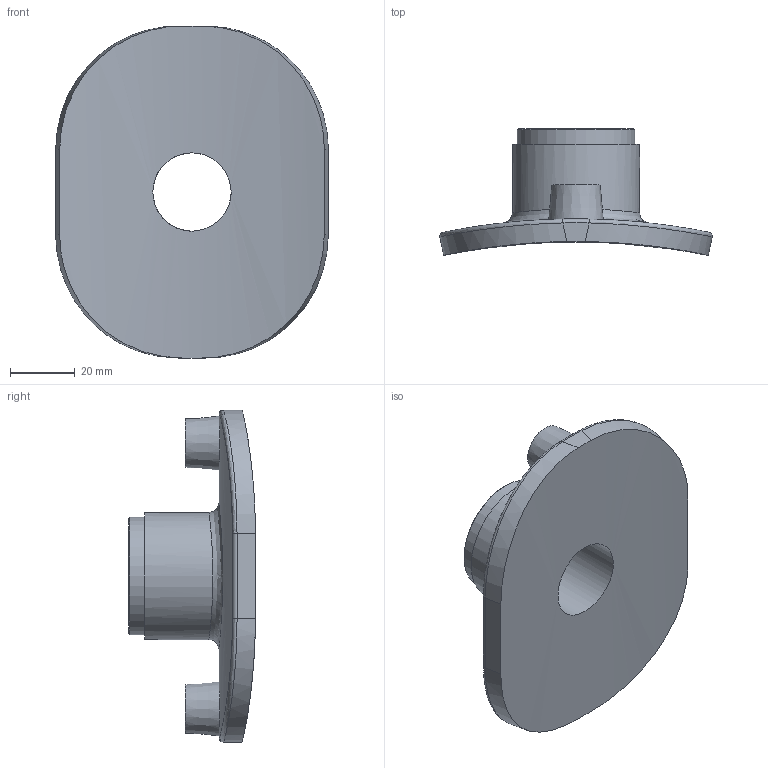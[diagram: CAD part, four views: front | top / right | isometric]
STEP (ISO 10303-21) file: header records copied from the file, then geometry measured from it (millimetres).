
FILE_DESCRIPTION(/* description */ ('PLASSON SENSOR ADAPTOR WITH STAINLESS STEEL THREAD 4''''16''''IPSx1'''''),/* implementation_level */ '2;1');
FILE_NAME(/* name */ 'C:\Dropbox\KIMPROJECTS-Inventor 2019\99-16-3568-Processing Inch\ASTM ElectroFusion 2021\5938S\5938S3400010.ipt.stp',/* time_stamp */ '2021-08-30T09:52:51+03:00',/* author */ ('Кирилл'),/* organization */ (''),/* preprocessor_version */ 'ST-DEVELOPER v17.2',/* originating_system */ 'Autodesk Inventor 2019',/* authorisation */ '');
FILE_SCHEMA (('AUTOMOTIVE_DESIGN { 1 0 10303 214 3 1 1 }'));
Length unit declared in the file: inch
Products named in the file (1): 5938S3400010
Bounding box: 84.39 x 39.25 x 102.87 mm (x, y, z)
Volume: 69050.9 mm3; surface area: 23982.8 mm2
Topology: 1 solids, 1 shells, 41 faces, 88 edges, 58 vertices
Faces by surface type: cylinder 17, plane 12, cone 5, bspline 5, torus 2
Full cylindrical faces by diameter (mm): 4 x2, 10 x2, 24.233 x1, 30.291 x1, 36.349 x1, 39.378 x1
Entity records: 1672 total; most frequent: CARTESIAN_POINT 743, ORIENTED_EDGE 178, DIRECTION 178, EDGE_CURVE 89, AXIS2_PLACEMENT_3D 75, VERTEX_POINT 59, EDGE_LOOP 52, FACE_OUTER_BOUND 41
